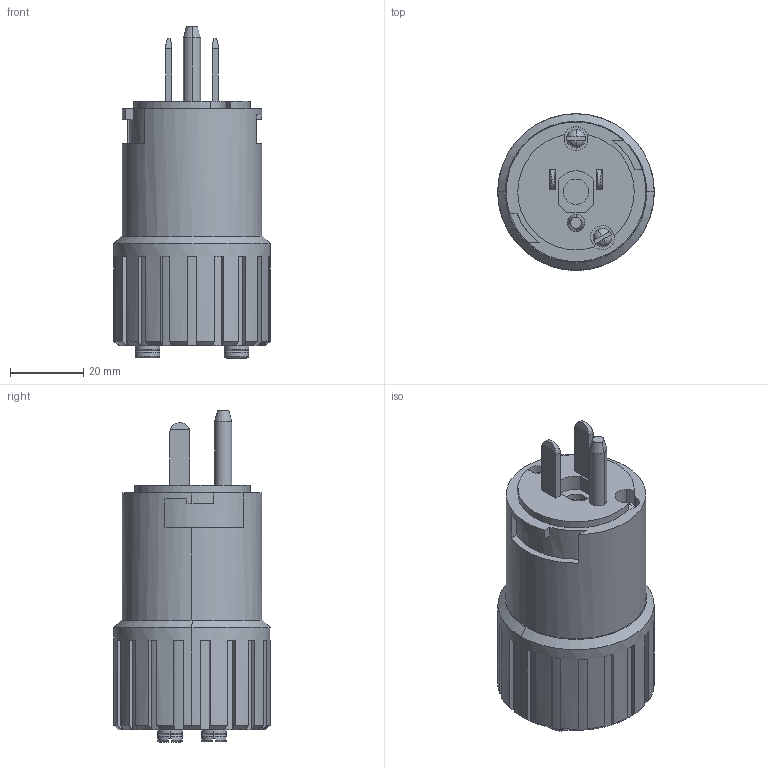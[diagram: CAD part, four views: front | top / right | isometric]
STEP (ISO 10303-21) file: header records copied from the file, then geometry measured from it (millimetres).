
FILE_DESCRIPTION (( 'STEP AP203' ), '1' );
FILE_NAME ('EPP-15A STEP.STEP', '2014-03-07T19:26:53', ( 'Rob' ), ( '' ), 'SwSTEP 2.0', 'SolidWorks 2013', '' );
FILE_SCHEMA (( 'CONFIG_CONTROL_DESIGN' ));
Length unit declared in the file: inch
Products named in the file (2): EPP-15A Part; EPP-15A STEP
Assembly tree (1 placements, depth 2):
  EPP-15A STEP
    EPP-15A Part
Bounding box: 42.67 x 42.67 x 90.55 mm (x, y, z)
Volume: 79627.8 mm3; surface area: 14196.6 mm2
Topology: 1 solids, 1 shells, 207 faces, 530 edges, 333 vertices
Faces by surface type: plane 115, cylinder 53, cone 23, torus 12, sphere 4
Entity records: 6495 total; most frequent: CARTESIAN_POINT 1240, DIRECTION 1117, ORIENTED_EDGE 1044, EDGE_CURVE 522, AXIS2_PLACEMENT_3D 434, VERTEX_POINT 329, LINE 249, VECTOR 249
